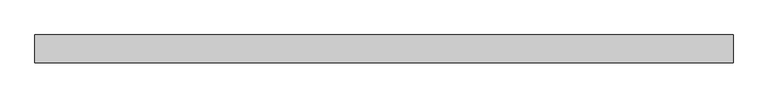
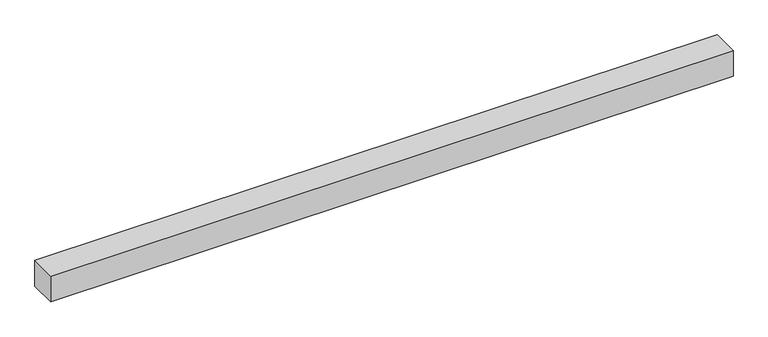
"""IFC4 building model written with IfcOpenShell, lengths in millimetres: light fixture geometry, GENILED_Светильник светодиодный_Line Alum Advanced : Line Alum Advanced 1250x50x50 50Вт 90Ra Опал."""

from ifc_helpers import new_model, si_unit, origin, origin_with_axes, place, context, project, spatial, polyline, outline, extrude, faceted_brep, source, transform, mapped, element, save


def light_fixture_b87eb1c6(model_context):
    return source(origin(), model_context, "Body", "SolidModel", [
        faceted_brep([(625.0, 25.0, 50.0), (-625.0, 25.0, 50.0), (-625.0, -25.0, 50.0), (625.0, -25.0, 50.0), (623.0, 23.0, 5.0), (623.0, -23.0, 5.0), (-623.0, -23.0, 5.0), (-623.0, 23.0, 5.0), (625.0, 25.0, 0.0), (625.0, -25.0, 0.0), (-625.0, -25.0, 0.0), (-625.0, 25.0, 0.0), (623.0, 23.0, 0.0), (-623.0, 23.0, 0.0), (-623.0, -23.0, 0.0), (623.0, -23.0, 0.0)], [[[0, 1, 2, 3]], [[4, 5, 6, 7]], [[8, 9, 10, 11], [12, 13, 14, 15]], [[1, 0, 8, 11]], [[2, 1, 11, 10]], [[3, 2, 10, 9]], [[0, 3, 9, 8]], [[12, 15, 5, 4]], [[15, 14, 6, 5]], [[14, 13, 7, 6]], [[13, 12, 4, 7]]]),
        extrude(outline(polyline([(623.0, 23.0), (623.0, -23.0), (-623.0, -23.0), (-623.0, 23.0), (623.0, 23.0)])), origin_with_axes(), (0.0, 0.0, 1.0), 5.0),
    ])


if __name__ == "__main__":
    model = new_model("IFC4")
    model_context = context("Model", 3, world=origin())
    ifc_project = project(units=[si_unit("LENGTHUNIT", "METRE", prefix="MILLI")], contexts=[model_context])
    site = spatial("IfcSite", under=ifc_project)
    building = spatial("IfcBuilding", under=site)
    placement = place(None, origin())
    light_fixture_shape = light_fixture_b87eb1c6(model_context)
    element("IfcLightFixture", 1, ObjectType="GENILED_Светильник светодиодный_Line Alum Advanced : Line Alum Advanced 1250x50x50 50Вт 90Ra Опал", at=placement, inside=building, context=model_context, shape_type="MappedRepresentation", body=[
        mapped(light_fixture_shape, transform((0.0, 0.0, 0.0), x_axis=(1.0, 0.0, 0.0), y_axis=(0.0, 1.0, 0.0), z_axis=(0.0, 0.0, 1.0))),
    ])
    save(model, "model.ifc")
